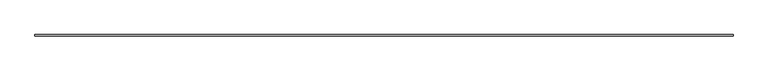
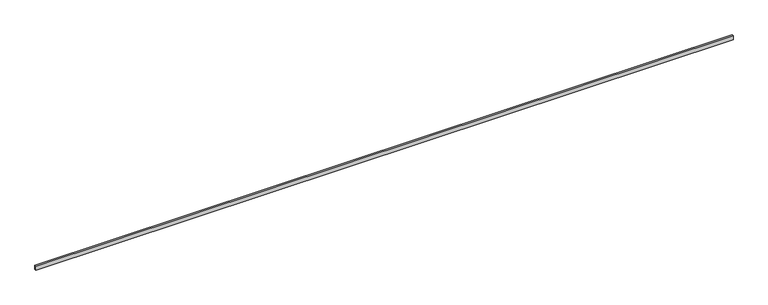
"""IFC4 building model written with IfcOpenShell, lengths in millimetres: proxy geometry, Modelos genéricos 26 : Modelos genéricos 25."""

from ifc_helpers import new_model, si_unit, frame, origin, place, context, project, spatial, polyline, outline, extrude, source, transform, mapped, element, save


def generic_models_04b795f0(model_context):
    return source(origin(), model_context, "Body", "SweptSolid", [
        extrude(outline(polyline([(13767.1855645, 6138.6238165), (13767.1855645, 6078.6238165), (-13461.5527533, 6078.6238165), (-13461.5527533, 6138.6238165), (13767.1855645, 6138.6238165)])), frame((0.0, 0.0, 3347.4183406), z_axis=(0.0, 0.0, 1.0), x_axis=(1.0, 0.0, 0.0)), (0.0, 0.0, 1.0), 160.0),
    ])


if __name__ == "__main__":
    model = new_model("IFC4")
    model_context = context("Model", 3, world=origin())
    ifc_project = project(units=[si_unit("LENGTHUNIT", "METRE", prefix="MILLI")], contexts=[model_context])
    site = spatial("IfcSite", under=ifc_project)
    building = spatial("IfcBuilding", under=site)
    placement = place(None, origin())
    generic_models_shape = generic_models_04b795f0(model_context)
    element("IfcBuildingElementProxy", 1, Name="Modelos genéricos 26 : Modelos genéricos 25", ObjectType="Modelos genéricos 26 : Modelos genéricos 25", at=placement, inside=building, context=model_context, shape_type="MappedRepresentation", body=[
        mapped(generic_models_shape, transform((0.0, 0.0, 0.0), x_axis=(1.0, 0.0, 0.0), y_axis=(0.0, 1.0, 0.0), z_axis=(0.0, 0.0, 1.0))),
    ])
    save(model, "model.ifc")
